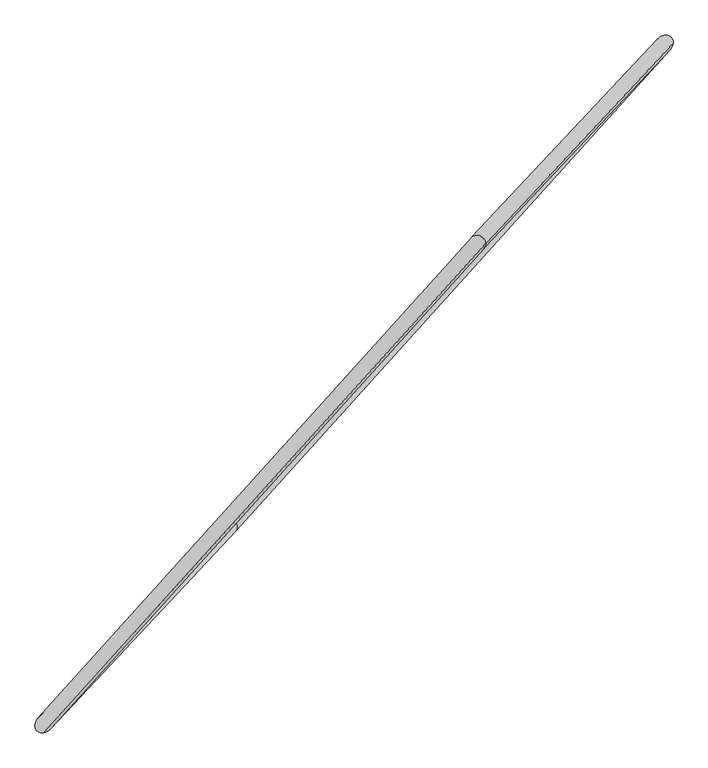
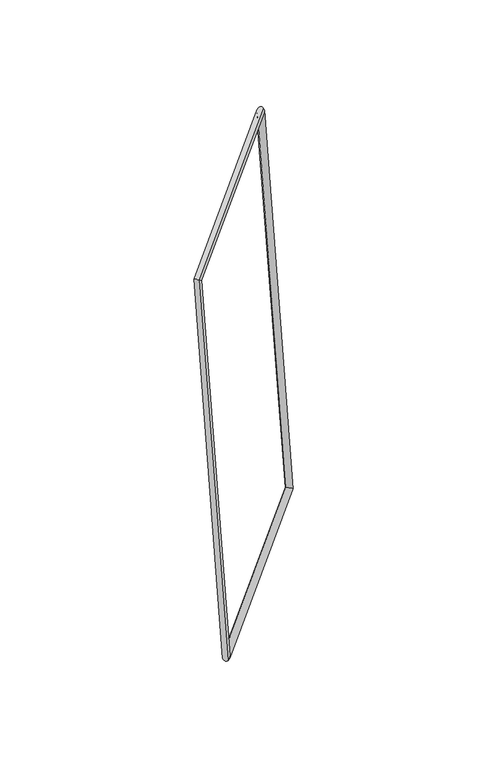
"""IFC4 building model written with IfcOpenShell, lengths in millimetres: proxy geometry, Família5 : Família5."""

from ifc_helpers import new_model, si_unit, frame, origin, place, context, project, spatial, ellipse_curve, source, transform, mapped, element, save
from ifc_brep_helpers import cylinder_surface, advanced_brep


def generic_models_f73f6350(model_context):
    return source(origin(), model_context, "Body", "AdvancedBrep", [
        advanced_brep(
        [(-1444.6288215, -1499.1331902, 28.0255068), (-1439.9764547, -1408.8226513, -28.0255068), (606.2406045, 856.6319499, -28.0255068), (678.3646717, 851.3238916, 28.0255068), (1489.0300968, 1798.4271743, -5625.8720623), (1578.755817, 1811.897265, -5681.4346925), (-557.1869624, -467.0274269, -5625.8720623), (-544.2376763, -538.5598168, -5681.4346925)],
        [
            (0, 1, ellipse_curve(frame((-1442.3026381, -1453.9779208, 0.0), z_axis=(0.41486676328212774, 0.46429025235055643, 0.7825088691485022), x_axis=(-0.526478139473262, -0.5789292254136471, 0.6226248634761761)), 64.2435588, 40.0)),
            (1, 2),
            (2, 3, ellipse_curve(frame((642.3026381, 853.9779208, 0.0), z_axis=(-0.526478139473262, -0.5789292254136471, 0.6226248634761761), x_axis=(-0.41486676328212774, -0.4642902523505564, -0.782508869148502)), 51.1171676, 40.0)),
            (3, 0),
            (1, 0, ellipse_curve(frame((-1442.3026381, -1453.9779208, 0.0), z_axis=(0.41486676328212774, 0.46429025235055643, 0.7825088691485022), x_axis=(-0.526478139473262, -0.5789292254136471, 0.6226248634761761)), 64.2435588, 40.0)),
            (3, 2, ellipse_curve(frame((642.3026381, 853.9779208, 0.0), z_axis=(-0.526478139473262, -0.5789292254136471, 0.6226248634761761), x_axis=(-0.41486676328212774, -0.4642902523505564, -0.782508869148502)), 51.1171676, 40.0)),
            (2, 4),
            (4, 5, ellipse_curve(frame((1533.8929569, 1805.1622197, -5653.6533774), z_axis=(0.41486676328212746, 0.4642902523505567, 0.782508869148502), x_axis=(-0.5264781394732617, -0.5789292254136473, 0.6226248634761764)), 64.2435588, 40.0)),
            (5, 3),
            (5, 4, ellipse_curve(frame((1533.8929569, 1805.1622197, -5653.6533774), z_axis=(0.41486676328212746, 0.4642902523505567, 0.782508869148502), x_axis=(-0.5264781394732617, -0.5789292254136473, 0.6226248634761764)), 64.2435588, 40.0)),
            (4, 6),
            (6, 7, ellipse_curve(frame((-550.7123193, -502.7936219, -5653.6533774), z_axis=(0.5264781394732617, 0.5789292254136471, -0.6226248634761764), x_axis=(0.4148667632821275, 0.464290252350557, 0.7825088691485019)), 51.1171676, 40.0)),
            (7, 5),
            (7, 6, ellipse_curve(frame((-550.7123193, -502.7936219, -5653.6533774), z_axis=(0.5264781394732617, 0.5789292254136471, -0.6226248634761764), x_axis=(0.4148667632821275, 0.464290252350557, 0.7825088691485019)), 51.1171676, 40.0)),
            (6, 1),
            (0, 7),
        ],
        [
            cylinder_surface(frame((-1442.3026381, -1453.9779208, 0.0), z_axis=(-0.6702862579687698, -0.7421026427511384, 0.0), x_axis=(-0.5199450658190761, 0.46962780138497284, 0.7135172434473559)), 40.0),
            cylinder_surface(frame((642.3026381, 853.9779208, 0.0), z_axis=(-0.15366884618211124, -0.16394008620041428, 0.9744277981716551), x_axis=(-0.050208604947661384, 0.9861623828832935, 0.15799636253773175)), 40.0),
            cylinder_surface(frame((1533.8929569, 1805.1622197, -5653.6533774), z_axis=(0.6702862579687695, 0.7421026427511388, 0.0), x_axis=(-0.515414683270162, 0.4655358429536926, -0.7194609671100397)), 40.0),
            cylinder_surface(frame((-550.7123193, -502.7936219, -5653.6533774), z_axis=(0.15366884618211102, 0.16394008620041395, -0.974427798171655), x_axis=(-0.9851511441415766, -0.05099873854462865, -0.16394008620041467)), 40.0),
        ],
        [
            (0, [[1, 2, 3, 4]]),
            (0, [[5, -4, 6, -2]]),
            (1, [[-3, 7, 8, 9]]),
            (1, [[-6, -9, 10, -7]]),
            (2, [[-8, 11, 12, 13]]),
            (2, [[-10, -13, 14, -11]]),
            (3, [[-12, 15, -1, 16]]),
            (3, [[-14, -16, -5, -15]]),
        ],
    ),
    ])


if __name__ == "__main__":
    model = new_model("IFC4")
    model_context = context("Model", 3, world=origin())
    ifc_project = project(units=[si_unit("LENGTHUNIT", "METRE", prefix="MILLI")], contexts=[model_context])
    site = spatial("IfcSite", under=ifc_project)
    building = spatial("IfcBuilding", under=site)
    placement = place(None, origin())
    generic_models_shape = generic_models_f73f6350(model_context)
    element("IfcBuildingElementProxy", 1, Name="Família5 : Família5", ObjectType="Família5 : Família5", at=placement, inside=building, context=model_context, shape_type="MappedRepresentation", body=[
        mapped(generic_models_shape, transform((0.0, 0.0, 0.0), x_axis=(1.0, 0.0, 0.0), y_axis=(0.0, 1.0, 0.0), z_axis=(0.0, 0.0, 1.0))),
    ])
    save(model, "model.ifc")
